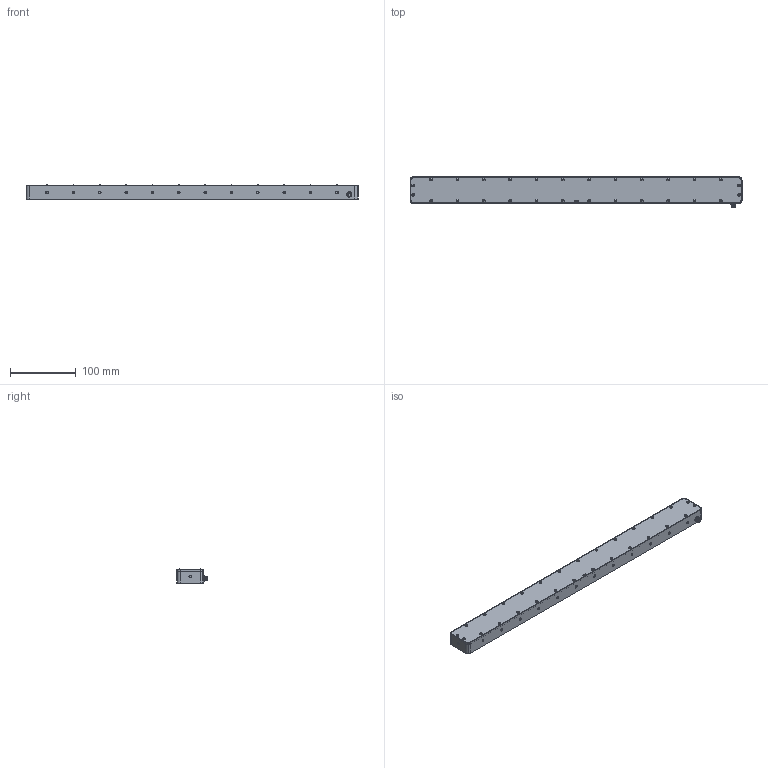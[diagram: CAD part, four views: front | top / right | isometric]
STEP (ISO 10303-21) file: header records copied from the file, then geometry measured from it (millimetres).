
FILE_DESCRIPTION(('STEP AP214'),'1');
FILE_NAME('Power-Line-480 Komplett ohne KK.stp','2020-10-08T13:33:05',(' '),(' '),'Spatial InterOp 3D',' ',' ');
FILE_SCHEMA(('AUTOMOTIVE_DESIGN { 1 0 10303 214 1 1 1 1 }'));
Length unit declared in the file: metre
Products named in the file (11): Power-Line-480 Komplett ohne KK; LED Träger; Front; Muster; Komponente1; M2 Linsenkopf.2; Schrauben; Muster2; Komponente2; Stecker; 86_6819_0002_00004
Assembly tree (36 placements, depth 5):
  Power-Line-480 Komplett ohne KK
    LED Träger
    Front
    Schrauben
      M2 Linsenkopf.2
        Muster
          Komponente1  x24
      Muster2
        Komponente2  x4
    Stecker
      86_6819_0002_00004
Bounding box: 504.2 x 46.2 x 21.28 mm (x, y, z)
Volume: 307354.1 mm3; surface area: 130466.5 mm2
Topology: 31 solids, 79 shells, 2692 faces, 7240 edges, 4744 vertices
Faces by surface type: cylinder 931, plane 816, cone 512, torus 338, sphere 72, extrusion 23
Entity records: 34741 total; most frequent: CARTESIAN_POINT 7177, DIRECTION 6090, ORIENTED_EDGE 5048, EDGE_CURVE 2656, AXIS2_PLACEMENT_3D 2511, VERTEX_POINT 1806, CIRCLE 1412, EDGE_LOOP 1376
